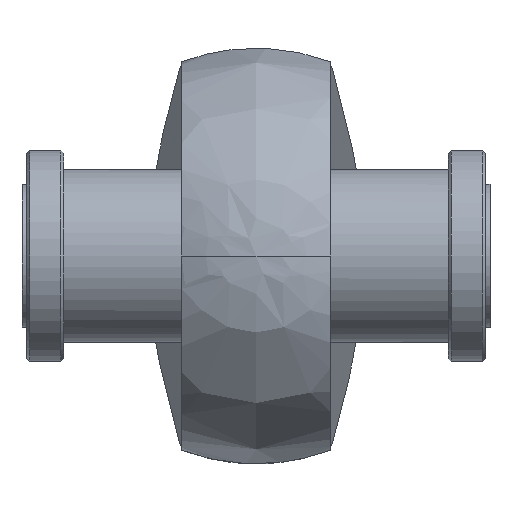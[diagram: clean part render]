
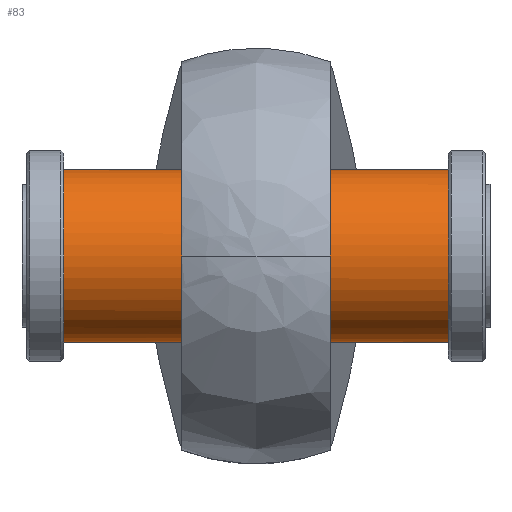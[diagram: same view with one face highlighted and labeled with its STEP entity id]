
A CAD part, left-side view. The second image highlights one B-rep face of the part: STEP entity #83.
In plain terms, the highlighted cylindrical face has radius 14 mm (diameter 28 mm), a full revolution.
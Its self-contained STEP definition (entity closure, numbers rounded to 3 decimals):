
#83=ADVANCED_FACE('',(#157),#1214,.T.);
#157=FACE_OUTER_BOUND('',#238,.T.);
#238=EDGE_LOOP('',(#506,#507,#508,#509));
#506=ORIENTED_EDGE('',*,*,#774,.T.);
#507=ORIENTED_EDGE('',*,*,#776,.T.);
#508=ORIENTED_EDGE('',*,*,#775,.T.);
#509=ORIENTED_EDGE('',*,*,#776,.F.);
#774=EDGE_CURVE('',#1128,#1128,#983,.T.);
#775=EDGE_CURVE('',#1129,#1129,#984,.T.);
#776=EDGE_CURVE('',#1128,#1129,#897,.T.);
#897=B_SPLINE_CURVE_WITH_KNOTS('',1,(#2248,#2249),.UNSPECIFIED.,.F.,.F.,
(2,2),(6.311,68.219),.UNSPECIFIED.);
#983=(
BOUNDED_CURVE()
B_SPLINE_CURVE(2,(#2230,#2231,#2232,#2233,#2234,#2235,#2236,#2237,#2238),
 .UNSPECIFIED.,.T.,.F.)
B_SPLINE_CURVE_WITH_KNOTS((3,2,2,2,3),(0.,21.991,43.982,
65.973,87.965),.UNSPECIFIED.)
CURVE()
GEOMETRIC_REPRESENTATION_ITEM()
RATIONAL_B_SPLINE_CURVE((1.,0.707,1.,0.707,1.,0.707,
1.,0.707,1.))
REPRESENTATION_ITEM('')
);
#984=(
BOUNDED_CURVE()
B_SPLINE_CURVE(2,(#2239,#2240,#2241,#2242,#2243,#2244,#2245,#2246,#2247),
 .UNSPECIFIED.,.T.,.F.)
B_SPLINE_CURVE_WITH_KNOTS((3,2,2,2,3),(0.,21.991,43.982,
65.973,87.965),.UNSPECIFIED.)
CURVE()
GEOMETRIC_REPRESENTATION_ITEM()
RATIONAL_B_SPLINE_CURVE((1.,0.707,1.,0.707,1.,0.707,
1.,0.707,1.))
REPRESENTATION_ITEM('')
);
#1128=VERTEX_POINT('',#2182);
#1129=VERTEX_POINT('',#2183);
#1214=CYLINDRICAL_SURFACE('',#1366,14.);
#1366=AXIS2_PLACEMENT_3D('',#2172,#1412,$);
#1412=DIRECTION('',(0.,-1.,0.));
#2172=CARTESIAN_POINT('',(0.,0.,0.));
#2182=CARTESIAN_POINT('',(14.,30.954,0.));
#2183=CARTESIAN_POINT('',(14.,-30.954,0.));
#2230=CARTESIAN_POINT('',(14.,30.954,0.));
#2231=CARTESIAN_POINT('',(14.,30.954,14.));
#2232=CARTESIAN_POINT('',(0.,30.954,14.));
#2233=CARTESIAN_POINT('',(-14.,30.954,14.));
#2234=CARTESIAN_POINT('',(-14.,30.954,0.));
#2235=CARTESIAN_POINT('',(-14.,30.954,-14.));
#2236=CARTESIAN_POINT('',(0.,30.954,-14.));
#2237=CARTESIAN_POINT('',(14.,30.954,-14.));
#2238=CARTESIAN_POINT('',(14.,30.954,0.));
#2239=CARTESIAN_POINT('',(14.,-30.954,0.));
#2240=CARTESIAN_POINT('',(14.,-30.954,-14.));
#2241=CARTESIAN_POINT('',(0.,-30.954,-14.));
#2242=CARTESIAN_POINT('',(-14.,-30.954,-14.));
#2243=CARTESIAN_POINT('',(-14.,-30.954,0.));
#2244=CARTESIAN_POINT('',(-14.,-30.954,14.));
#2245=CARTESIAN_POINT('',(0.,-30.954,14.));
#2246=CARTESIAN_POINT('',(14.,-30.954,14.));
#2247=CARTESIAN_POINT('',(14.,-30.954,0.));
#2248=CARTESIAN_POINT('',(14.,30.954,0.));
#2249=CARTESIAN_POINT('',(14.,-30.954,0.));
